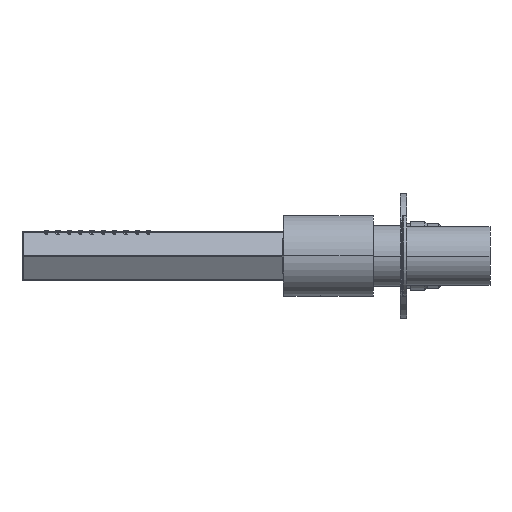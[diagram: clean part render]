
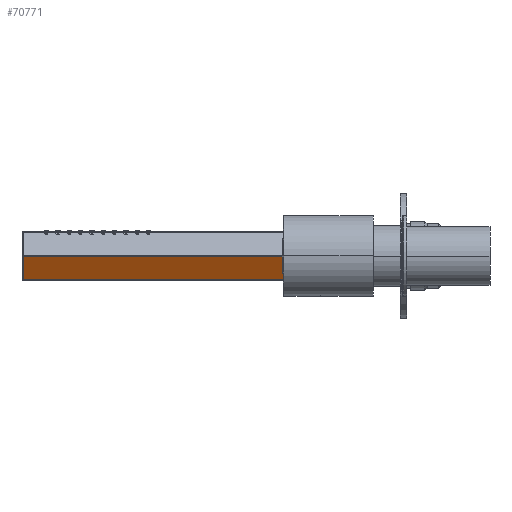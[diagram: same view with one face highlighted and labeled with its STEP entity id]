
A CAD part, left-side view. The second image highlights one B-rep face of the part: STEP entity #70771.
In plain terms, the highlighted planar face has unit normal (-0.866, 0, -0.5).
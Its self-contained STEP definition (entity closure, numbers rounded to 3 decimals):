
#59962=DIRECTION('',(0.,1.,0.));
#59963=VECTOR('',#59962,182.386);
#59964=CARTESIAN_POINT('',(382.856,149.6,-11.874));
#59965=LINE('',#59964,#59963);
#59983=DIRECTION('',(0.,-1.,0.));
#59984=VECTOR('',#59983,182.386);
#59985=CARTESIAN_POINT('',(376.144,331.986,-0.25));
#59986=LINE('',#59985,#59984);
#60450=DIRECTION('',(0.5,0.,-0.866));
#60451=VECTOR('',#60450,13.423);
#60452=CARTESIAN_POINT('',(376.144,149.6,-0.25));
#60453=LINE('',#60452,#60451);
#60962=DIRECTION('',(-0.5,0.,0.866));
#60963=VECTOR('',#60962,13.423);
#60964=CARTESIAN_POINT('',(382.856,331.986,-11.874));
#60965=LINE('',#60964,#60963);
#69058=CARTESIAN_POINT('',(376.144,331.986,-0.25));
#69059=CARTESIAN_POINT('',(376.144,149.6,-0.25));
#69060=VERTEX_POINT('',#69058);
#69061=VERTEX_POINT('',#69059);
#69062=CARTESIAN_POINT('',(382.856,331.986,-11.874));
#69063=VERTEX_POINT('',#69062);
#69064=CARTESIAN_POINT('',(382.856,149.6,-11.874));
#69065=VERTEX_POINT('',#69064);
#70757=CARTESIAN_POINT('',(383.191,140.481,-12.456));
#70758=DIRECTION('',(-0.866,0.,-0.5));
#70759=DIRECTION('',(-0.5,0.,0.866));
#70760=AXIS2_PLACEMENT_3D('',#70757,#70758,#70759);
#70761=PLANE('',#70760);
#70763=ORIENTED_EDGE('',*,*,#70762,.T.);
#70765=ORIENTED_EDGE('',*,*,#70764,.T.);
#70766=ORIENTED_EDGE('',*,*,#70747,.T.);
#70768=ORIENTED_EDGE('',*,*,#70767,.T.);
#70769=EDGE_LOOP('',(#70763,#70765,#70766,#70768));
#70770=FACE_OUTER_BOUND('',#70769,.F.);
#70747=EDGE_CURVE('',#69065,#69063,#59965,.T.);
#70762=EDGE_CURVE('',#69060,#69061,#59986,.T.);
#70764=EDGE_CURVE('',#69061,#69065,#60453,.T.);
#70767=EDGE_CURVE('',#69063,#69060,#60965,.T.);
#70771=ADVANCED_FACE('',(#70770),#70761,.T.);
